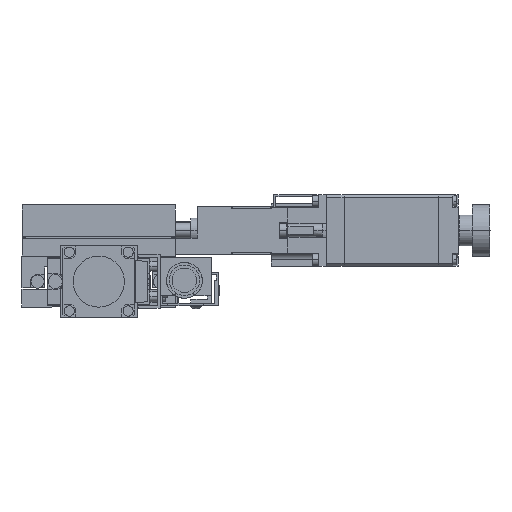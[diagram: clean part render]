
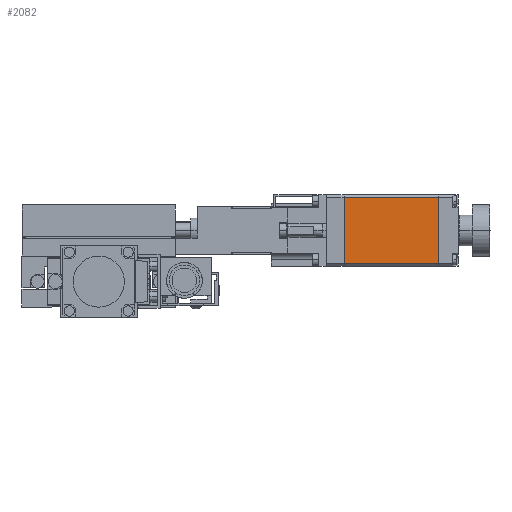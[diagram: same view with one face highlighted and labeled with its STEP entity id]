
A CAD part, left-side view. The second image highlights one B-rep face of the part: STEP entity #2082.
In plain terms, the highlighted planar face has unit normal (-1, 0, 0).
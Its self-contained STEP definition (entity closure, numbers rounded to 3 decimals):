
#2082=ADVANCED_FACE('',(#5244),#5245,.F.);
#5244=FACE_OUTER_BOUND('',#8408,.T.);
#5245=PLANE('',#8409);
#8408=EDGE_LOOP('',(#20367,#20368,#20369,#20370));
#8409=AXIS2_PLACEMENT_3D('',#20371,#20372,#20373);
#20367=ORIENTED_EDGE('',*,*,#24047,.F.);
#20368=ORIENTED_EDGE('',*,*,#24094,.T.);
#20369=ORIENTED_EDGE('',*,*,#24142,.T.);
#20370=ORIENTED_EDGE('',*,*,#23860,.F.);
#20371=CARTESIAN_POINT('',(-14.,-140.5,42.845));
#20372=DIRECTION('',(1.0,0.,0.));
#20373=DIRECTION('',(0.,-1.0,0.));
#23860=EDGE_CURVE('',#29871,#29873,#29874,.T.);
#24047=EDGE_CURVE('',#30192,#29871,#30194,.T.);
#24094=EDGE_CURVE('',#30192,#30262,#30264,.T.);
#24142=EDGE_CURVE('',#30262,#29873,#30326,.T.);
#29871=VERTEX_POINT('',#38829);
#29873=VERTEX_POINT('',#38832);
#29874=LINE('',#38833,#38834);
#30192=VERTEX_POINT('',#39307);
#30194=LINE('',#39310,#39311);
#30262=VERTEX_POINT('',#39419);
#30264=LINE('',#39422,#39423);
#30326=LINE('',#39526,#39527);
#38829=CARTESIAN_POINT('',(-14.,-132.95,17.155));
#38832=CARTESIAN_POINT('',(-14.,-96.,17.155));
#38833=CARTESIAN_POINT('',(-14.,-140.5,17.155));
#38834=VECTOR('',#45122,1000.0);
#39307=CARTESIAN_POINT('',(-14.,-132.95,42.845));
#39310=CARTESIAN_POINT('',(-14.,-132.95,42.845));
#39311=VECTOR('',#45369,1000.0);
#39419=CARTESIAN_POINT('',(-14.,-96.,42.845));
#39422=CARTESIAN_POINT('',(-14.,-140.5,42.845));
#39423=VECTOR('',#45426,1000.0);
#39526=CARTESIAN_POINT('',(-14.,-96.,42.845));
#39527=VECTOR('',#45486,1000.0);
#45122=DIRECTION('',(0.,1.0,0.));
#45369=DIRECTION('',(0.,0.,-1.0));
#45426=DIRECTION('',(0.,1.0,0.));
#45486=DIRECTION('',(0.,0.,-1.0));
